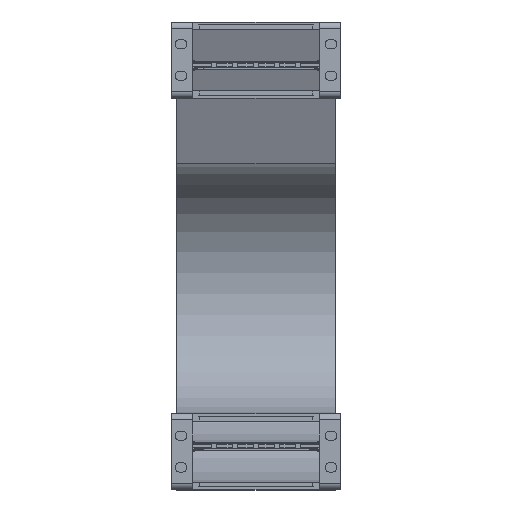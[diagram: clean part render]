
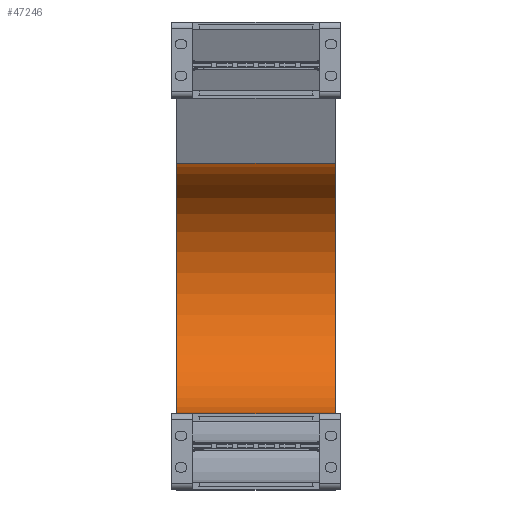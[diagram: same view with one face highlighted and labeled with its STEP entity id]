
A CAD part, top view. The second image highlights one B-rep face of the part: STEP entity #47246.
In plain terms, the highlighted cylindrical face has radius 59.5 mm (diameter 119 mm), a partial arc.
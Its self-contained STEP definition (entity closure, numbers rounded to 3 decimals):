
#46398=DIRECTION('',(-1.,0.,0.));
#46399=VECTOR('',#46398,75.);
#46400=CARTESIAN_POINT('',(37.5,36.,-400.));
#46401=LINE('',#46400,#46399);
#46412=DIRECTION('',(-1.,0.,0.));
#46413=VECTOR('',#46412,75.);
#46414=CARTESIAN_POINT('',(37.5,154.774,-405.18));
#46415=LINE('',#46414,#46413);
#46419=CARTESIAN_POINT('',(37.5,95.5,-400.));
#46420=DIRECTION('',(-1.,0.,0.));
#46421=DIRECTION('',(0.,0.996,-0.087));
#46422=AXIS2_PLACEMENT_3D('',#46419,#46420,#46421);
#46498=CARTESIAN_POINT('',(-37.5,95.5,-400.));
#46499=DIRECTION('',(-1.,0.,0.));
#46500=DIRECTION('',(0.,0.996,-0.087));
#46501=AXIS2_PLACEMENT_3D('',#46498,#46499,#46500);
#46620=CARTESIAN_POINT('',(37.5,154.774,-405.18));
#46621=CARTESIAN_POINT('',(-37.5,154.774,-405.18));
#46622=VERTEX_POINT('',#46620);
#46623=VERTEX_POINT('',#46621);
#46644=CARTESIAN_POINT('',(37.5,36.,-400.));
#46645=CARTESIAN_POINT('',(-37.5,36.,-400.));
#46646=VERTEX_POINT('',#46644);
#46647=VERTEX_POINT('',#46645);
#47232=CARTESIAN_POINT('',(1.,95.5,-400.));
#47233=DIRECTION('',(-1.,0.,0.));
#47234=DIRECTION('',(0.,-0.996,0.087));
#47235=AXIS2_PLACEMENT_3D('',#47232,#47233,#47234);
#47236=CYLINDRICAL_SURFACE('',#47235,59.5);
#47238=ORIENTED_EDGE('',*,*,#47237,.F.);
#47240=ORIENTED_EDGE('',*,*,#47239,.T.);
#47241=ORIENTED_EDGE('',*,*,#47215,.T.);
#47243=ORIENTED_EDGE('',*,*,#47242,.F.);
#47244=EDGE_LOOP('',(#47238,#47240,#47241,#47243));
#47245=FACE_OUTER_BOUND('',#47244,.F.);
#46423=CIRCLE('',#46422,59.5);
#46502=CIRCLE('',#46501,59.5);
#47215=EDGE_CURVE('',#46646,#46647,#46401,.T.);
#47237=EDGE_CURVE('',#46622,#46623,#46415,.T.);
#47239=EDGE_CURVE('',#46622,#46646,#46423,.T.);
#47242=EDGE_CURVE('',#46623,#46647,#46502,.T.);
#47246=ADVANCED_FACE('',(#47245),#47236,.F.);
